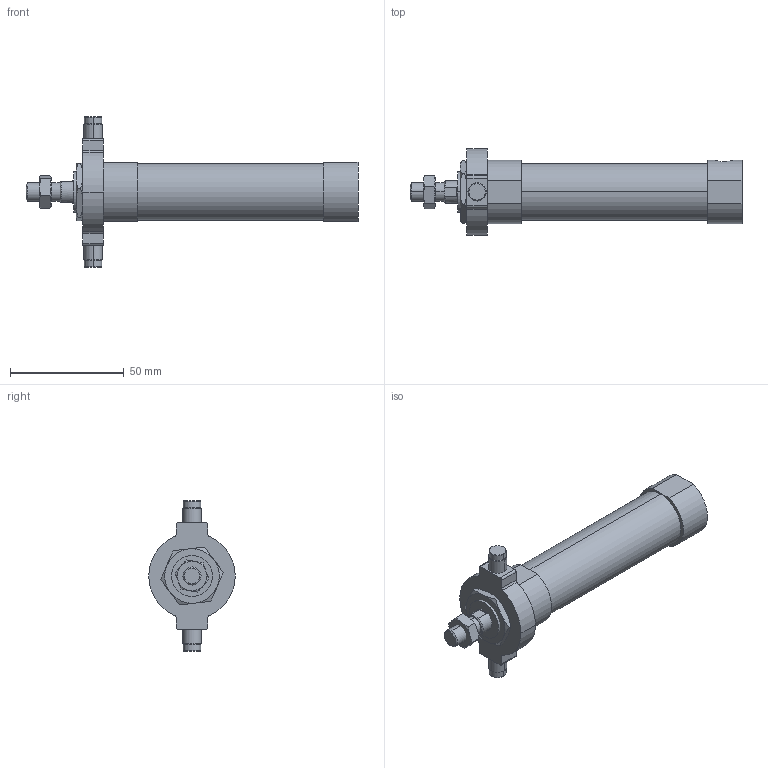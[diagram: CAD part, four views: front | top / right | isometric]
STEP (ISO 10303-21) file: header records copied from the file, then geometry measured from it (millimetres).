
FILE_DESCRIPTION (( 'STEP AP203' ), '1' );
FILE_NAME ('JGND1-20-15(25)-T.STEP', '2016-08-04T02:13:39', ( '' ), ( '' ), 'SwSTEP 2.0', 'SolidWorks 2014', '' );
FILE_SCHEMA (( 'CONFIG_CONTROL_DESIGN' ));
Length unit declared in the file: millimetre
Products named in the file (5): J#1-20-15(P); J#2-20-T; JGND1-20-15(25)-T
Assembly tree (4 placements, depth 2):
  JGND1-20-15(25)-T
    J#1-20-15(P)
    (unnamed)
    (unnamed)
    J#2-20-T
Bounding box: 146 x 38 x 66 mm (x, y, z)
Volume: 73293.7 mm3; surface area: 17841.3 mm2
Topology: 4 solids, 4 shells, 120 faces, 269 edges, 166 vertices
Faces by surface type: plane 43, cylinder 41, torus 24, cone 12
Entity records: 4146 total; most frequent: CARTESIAN_POINT 952, DIRECTION 585, ORIENTED_EDGE 538, EDGE_CURVE 269, AXIS2_PLACEMENT_3D 243, VERTEX_POINT 166, EDGE_LOOP 135, FACE_OUTER_BOUND 120
